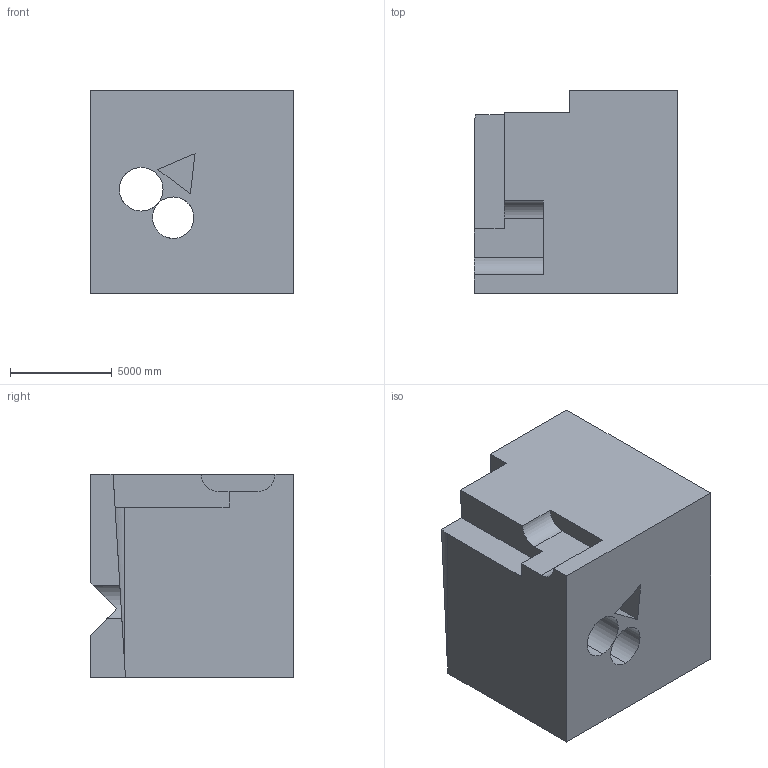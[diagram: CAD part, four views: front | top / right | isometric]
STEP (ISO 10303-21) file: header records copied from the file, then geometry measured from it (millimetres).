
FILE_DESCRIPTION (( 'STEP AP203' ), '1' );
FILE_NAME ('803.STEP', '2022-07-29T13:19:32', ( 'user' ), ( '' ), 'SwSTEP 2.0', 'SolidWorks 2021', '' );
FILE_SCHEMA (( 'CONFIG_CONTROL_DESIGN' ));
Length unit declared in the file: centimetre
Products named in the file (1): 803
Bounding box: 10000 x 10000 x 10000 mm (x, y, z)
Volume: 828674162579 mm3; surface area: 718383334.8 mm2
Topology: 1 solids, 1 shells, 32 faces, 90 edges, 60 vertices
Faces by surface type: plane 25, cylinder 7
Entity records: 1108 total; most frequent: CARTESIAN_POINT 207, ORIENTED_EDGE 180, DIRECTION 157, EDGE_CURVE 90, VECTOR 73, LINE 73, VERTEX_POINT 60, AXIS2_PLACEMENT_3D 42
